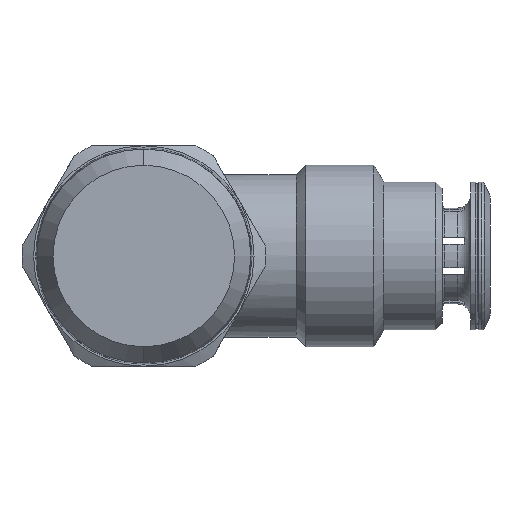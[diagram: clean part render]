
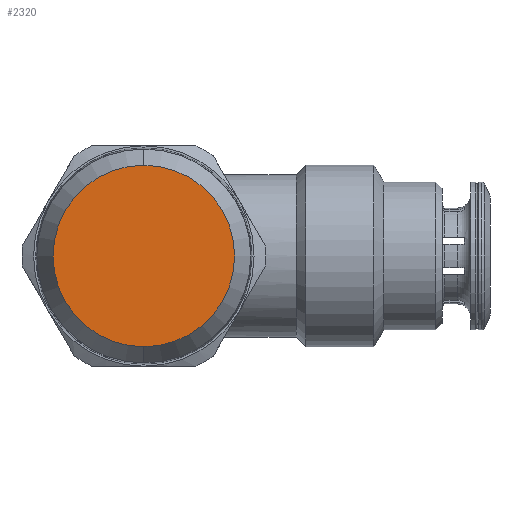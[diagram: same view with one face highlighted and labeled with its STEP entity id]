
A CAD part, front view. The second image highlights one B-rep face of the part: STEP entity #2320.
In plain terms, the highlighted planar face has unit normal (0, -1, 0).
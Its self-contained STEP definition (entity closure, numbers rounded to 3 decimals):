
#270 = ORIENTED_EDGE ( 'NONE', *, *, #6379, .T. ) ;
#315 = CIRCLE ( 'NONE', #1727, 7. ) ;
#383 = VERTEX_POINT ( 'NONE', #5505 ) ;
#930 = AXIS2_PLACEMENT_3D ( 'NONE', #6680, #3411, #7329 ) ;
#1727 = AXIS2_PLACEMENT_3D ( 'NONE', #5965, #6619, #5933 ) ;
#1966 = FACE_OUTER_BOUND ( 'NONE', #6033, .T. ) ;
#2320 = ADVANCED_FACE ( 'NONE', ( #1966 ), #4668, .T. ) ;
#3411 = DIRECTION ( 'NONE',  ( 0., -1., 0. ) ) ;
#3932 = VERTEX_POINT ( 'NONE', #4129 ) ;
#3964 = CIRCLE ( 'NONE', #4591, 7. ) ;
#4129 = CARTESIAN_POINT ( 'NONE',  ( 0., -24.2, -7. ) ) ;
#4591 = AXIS2_PLACEMENT_3D ( 'NONE', #4771, #6771, #4804 ) ;
#4668 = PLANE ( 'NONE',  #930 ) ;
#4771 = CARTESIAN_POINT ( 'NONE',  ( 0., -24.2, 0. ) ) ;
#4804 = DIRECTION ( 'NONE',  ( 0., 0., -1. ) ) ;
#5505 = CARTESIAN_POINT ( 'NONE',  ( 0., -24.2, 7. ) ) ;
#5933 = DIRECTION ( 'NONE',  ( 0., 0., -1. ) ) ;
#5965 = CARTESIAN_POINT ( 'NONE',  ( 0., -24.2, 0. ) ) ;
#6033 = EDGE_LOOP ( 'NONE', ( #270, #6350 ) ) ;
#6350 = ORIENTED_EDGE ( 'NONE', *, *, #7951, .T. ) ;
#6379 = EDGE_CURVE ( 'NONE', #383, #3932, #315, .T. ) ;
#6619 = DIRECTION ( 'NONE',  ( 0., -1., 0. ) ) ;
#6680 = CARTESIAN_POINT ( 'NONE',  ( 0., -24.2, 0. ) ) ;
#6771 = DIRECTION ( 'NONE',  ( 0., -1., 0. ) ) ;
#7329 = DIRECTION ( 'NONE',  ( 0., 0., -1. ) ) ;
#7951 = EDGE_CURVE ( 'NONE', #3932, #383, #3964, .T. ) ;
